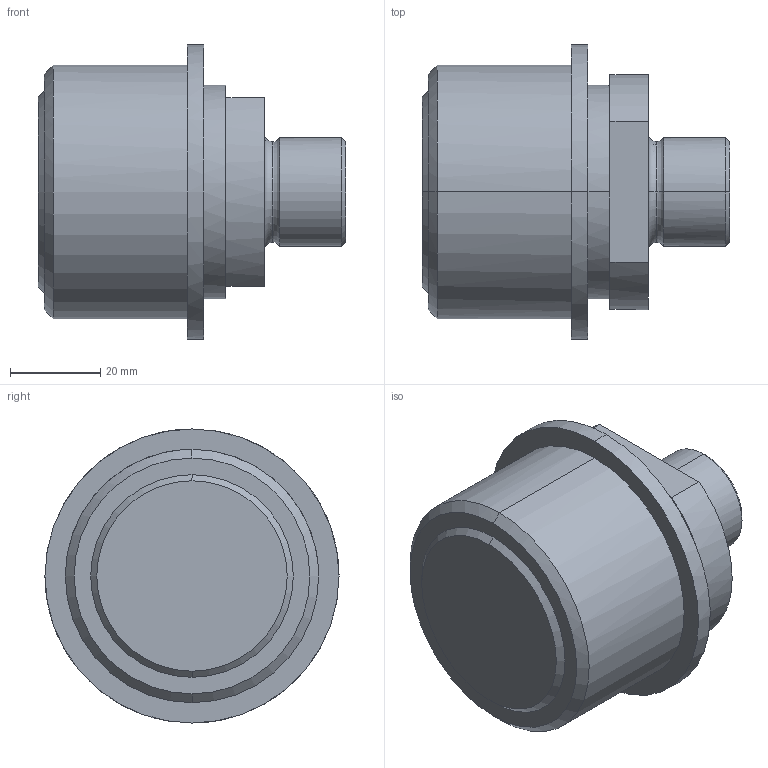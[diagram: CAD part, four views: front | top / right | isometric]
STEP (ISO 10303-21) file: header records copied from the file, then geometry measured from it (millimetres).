
FILE_DESCRIPTION(('CATIA V5 STEP Exchange'),'2;1');
FILE_NAME('C:\Users\Utente\Desktop\IO LAVORO\3D X SITO CF\X SITO\PLASTICA\AGS\AGS3412M24.stp','2021-02-21T19:37:27+00:00',('none'),('none'),'CATIA Version 5 Release 20 GA (IN-10)','CATIA V5 STEP AP203','none');
FILE_SCHEMA(('CONFIG_CONTROL_DESIGN'));
Length unit declared in the file: millimetre
Products named in the file (1): AGS3412M24
Bounding box: 68 x 65 x 65 mm (x, y, z)
Volume: 124379.1 mm3; surface area: 16692.9 mm2
Topology: 1 solids, 1 shells, 32 faces, 90 edges, 64 vertices
Faces by surface type: plane 12, cylinder 10, cone 6, torus 4
Entity records: 1198 total; most frequent: CARTESIAN_POINT 343, ORIENTED_EDGE 180, DIRECTION 139, EDGE_CURVE 90, AXIS2_PLACEMENT_3D 82, VERTEX_POINT 64, CIRCLE 49, EDGE_LOOP 36
